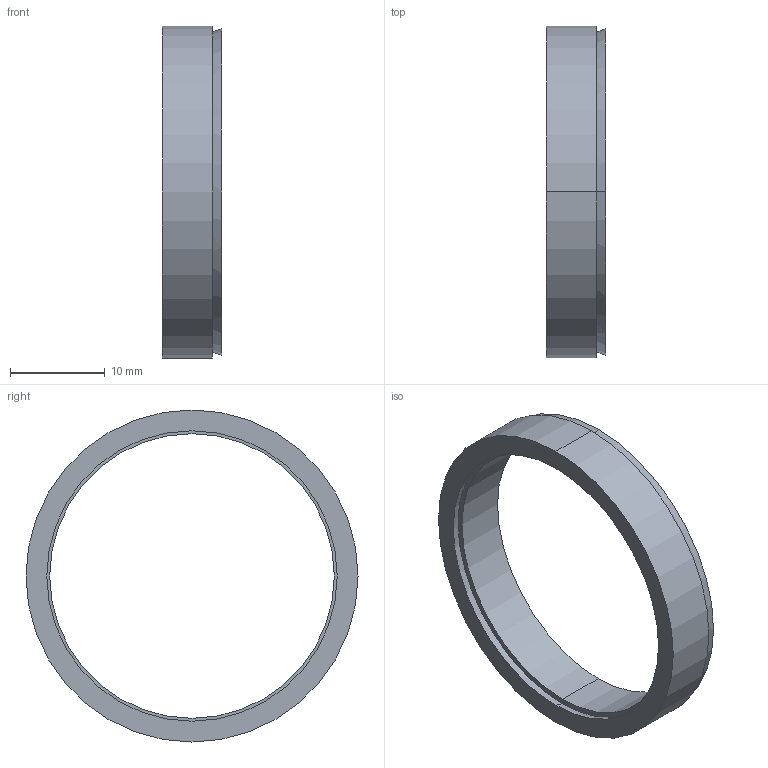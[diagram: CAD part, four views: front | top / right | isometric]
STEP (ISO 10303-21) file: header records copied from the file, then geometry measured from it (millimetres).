
FILE_DESCRIPTION (( 'STEP AP203' ), '1' );
FILE_NAME ('R-30-35.STEP', '2017-11-06T02:18:07', ( 'MYCOM' ), ( '' ), 'SwSTEP 2.0', 'SolidWorks 2015', '' );
FILE_SCHEMA (( 'CONFIG_CONTROL_DESIGN' ));
Length unit declared in the file: millimetre
Products named in the file (1): R-30-35
Bounding box: 6.3 x 35 x 35 mm (x, y, z)
Surface area: 2784 mm2 (no closed solid volume)
Topology: 0 solids, 2 shells, 12 faces, 24 edges, 16 vertices
Faces by surface type: cylinder 4, cone 4, plane 4
Entity records: 406 total; most frequent: DIRECTION 66, CARTESIAN_POINT 53, ORIENTED_EDGE 48, AXIS2_PLACEMENT_3D 29, EDGE_CURVE 24, VERTEX_POINT 16, CIRCLE 16, EDGE_LOOP 16
